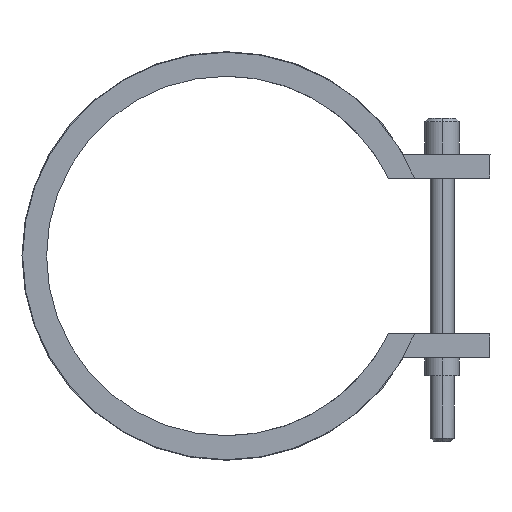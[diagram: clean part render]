
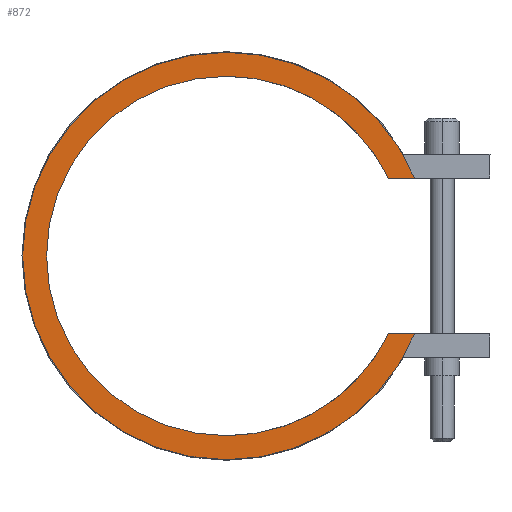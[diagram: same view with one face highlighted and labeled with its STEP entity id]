
A CAD part, left-side view. The second image highlights one B-rep face of the part: STEP entity #872.
In plain terms, the highlighted planar face has unit normal (-1, 0, 0).
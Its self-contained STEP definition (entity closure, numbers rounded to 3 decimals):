
#410=CARTESIAN_POINT('Vertex',(-20.,-27.037,-13.)) ;
#413=CARTESIAN_POINT('Line Origine',(-20.,-29.227,-13.)) ;
#417=CARTESIAN_POINT('Vertex',(-20.,-31.417,-13.)) ;
#463=CARTESIAN_POINT('Vertex',(-20.,0.,-34.)) ;
#466=CARTESIAN_POINT('Axis2P3D Location',(-20.,0.,0.)) ;
#487=CARTESIAN_POINT('Vertex',(-20.,0.,34.)) ;
#490=CARTESIAN_POINT('Axis2P3D Location',(-20.,0.,0.)) ;
#502=CARTESIAN_POINT('Axis2P3D Location',(-20.,0.,0.)) ;
#506=CARTESIAN_POINT('Vertex',(-20.,-31.417,13.)) ;
#526=CARTESIAN_POINT('Line Origine',(-20.,-29.227,13.)) ;
#530=CARTESIAN_POINT('Vertex',(-20.,-27.037,13.)) ;
#818=CARTESIAN_POINT('Axis2P3D Location',(-20.,0.,0.)) ;
#822=CARTESIAN_POINT('Vertex',(-20.,0.,-30.)) ;
#845=CARTESIAN_POINT('Axis2P3D Location',(-20.,0.,0.)) ;
#850=CARTESIAN_POINT('Axis2P3D Location',(-20.,0.,0.)) ;
#854=CARTESIAN_POINT('Vertex',(-20.,0.,30.)) ;
#857=CARTESIAN_POINT('Axis2P3D Location',(-20.,0.,0.)) ;
#414=DIRECTION('Vector Direction',(0.,1.,0.)) ;
#467=DIRECTION('Axis2P3D Direction',(1.,0.,-0.)) ;
#491=DIRECTION('Axis2P3D Direction',(1.,0.,-0.)) ;
#503=DIRECTION('Axis2P3D Direction',(1.,0.,-0.)) ;
#527=DIRECTION('Vector Direction',(0.,-1.,0.)) ;
#819=DIRECTION('Axis2P3D Direction',(1.,0.,-0.)) ;
#846=DIRECTION('Axis2P3D Direction',(1.,0.,0.)) ;
#847=DIRECTION('Axis2P3D XDirection',(0.,0.,-1.)) ;
#851=DIRECTION('Axis2P3D Direction',(1.,0.,0.)) ;
#858=DIRECTION('Axis2P3D Direction',(1.,0.,0.)) ;
#468=AXIS2_PLACEMENT_3D('Circle Axis2P3D',#466,#467,$) ;
#492=AXIS2_PLACEMENT_3D('Circle Axis2P3D',#490,#491,$) ;
#504=AXIS2_PLACEMENT_3D('Circle Axis2P3D',#502,#503,$) ;
#820=AXIS2_PLACEMENT_3D('Circle Axis2P3D',#818,#819,$) ;
#848=AXIS2_PLACEMENT_3D('Plane Axis2P3D',#845,#846,#847) ;
#852=AXIS2_PLACEMENT_3D('Circle Axis2P3D',#850,#851,$) ;
#859=AXIS2_PLACEMENT_3D('Circle Axis2P3D',#857,#858,$) ;
#863=ORIENTED_EDGE('',*,*,#419,.T.) ;
#864=ORIENTED_EDGE('',*,*,#824,.T.) ;
#865=ORIENTED_EDGE('',*,*,#856,.T.) ;
#866=ORIENTED_EDGE('',*,*,#861,.T.) ;
#867=ORIENTED_EDGE('',*,*,#532,.T.) ;
#868=ORIENTED_EDGE('',*,*,#508,.F.) ;
#869=ORIENTED_EDGE('',*,*,#494,.F.) ;
#870=ORIENTED_EDGE('',*,*,#470,.F.) ;
#415=VECTOR('Line Direction',#414,1.) ;
#528=VECTOR('Line Direction',#527,1.) ;
#872=ADVANCED_FACE('14060040',(#871),#849,.F.) ;
#469=CIRCLE('generated circle',#468,34.) ;
#493=CIRCLE('generated circle',#492,34.) ;
#505=CIRCLE('generated circle',#504,34.) ;
#821=CIRCLE('generated circle',#820,30.) ;
#853=CIRCLE('generated circle',#852,30.) ;
#860=CIRCLE('generated circle',#859,30.) ;
#419=EDGE_CURVE('',#418,#411,#416,.T.) ;
#470=EDGE_CURVE('',#418,#464,#469,.T.) ;
#494=EDGE_CURVE('',#464,#488,#493,.T.) ;
#508=EDGE_CURVE('',#488,#507,#505,.T.) ;
#532=EDGE_CURVE('',#531,#507,#529,.T.) ;
#824=EDGE_CURVE('',#411,#823,#821,.T.) ;
#856=EDGE_CURVE('',#823,#855,#853,.T.) ;
#861=EDGE_CURVE('',#855,#531,#860,.T.) ;
#862=EDGE_LOOP('',(#863,#864,#865,#866,#867,#868,#869,#870)) ;
#871=FACE_OUTER_BOUND('',#862,.T.) ;
#416=LINE('Line',#413,#415) ;
#529=LINE('Line',#526,#528) ;
#849=PLANE('Plane',#848) ;
#411=VERTEX_POINT('',#410) ;
#418=VERTEX_POINT('',#417) ;
#464=VERTEX_POINT('',#463) ;
#488=VERTEX_POINT('',#487) ;
#507=VERTEX_POINT('',#506) ;
#531=VERTEX_POINT('',#530) ;
#823=VERTEX_POINT('',#822) ;
#855=VERTEX_POINT('',#854) ;
